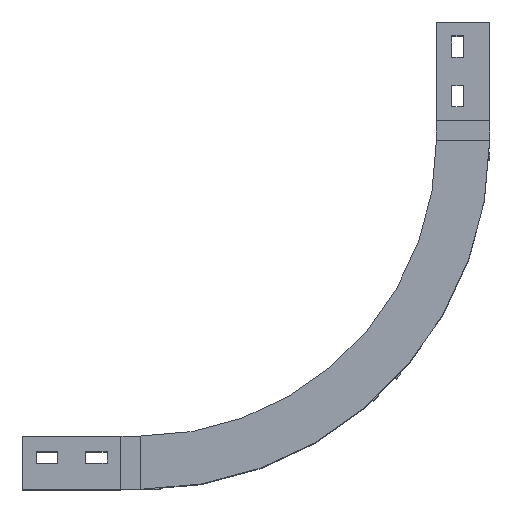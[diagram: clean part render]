
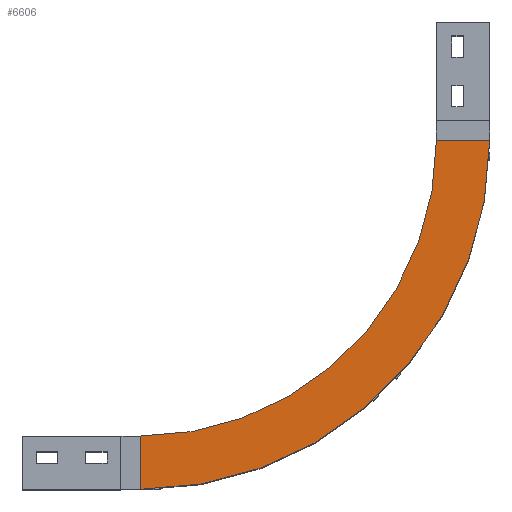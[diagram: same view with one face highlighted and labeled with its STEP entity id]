
A CAD part, top view. The second image highlights one B-rep face of the part: STEP entity #6606.
In plain terms, the highlighted planar face has unit normal (0, 0, 1).
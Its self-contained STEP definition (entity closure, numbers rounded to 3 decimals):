
#349=CIRCLE('',#6963,300.);
#350=CIRCLE('',#6964,354.);
#622=FACE_OUTER_BOUND('',#966,.T.);
#966=EDGE_LOOP('',(#4457,#4458,#4459,#4460));
#1433=LINE('',#9206,#2133);
#1437=LINE('',#9217,#2137);
#2133=VECTOR('',#7479,304.8);
#2137=VECTOR('',#7489,304.8);
#2833=VERTEX_POINT('',#9204);
#2834=VERTEX_POINT('',#9205);
#2837=VERTEX_POINT('',#9213);
#2838=VERTEX_POINT('',#9215);
#3481=EDGE_CURVE('',#2833,#2834,#1433,.T.);
#3485=EDGE_CURVE('',#2837,#2834,#349,.T.);
#3486=EDGE_CURVE('',#2833,#2838,#350,.T.);
#3487=EDGE_CURVE('',#2837,#2838,#1437,.T.);
#4457=ORIENTED_EDGE('',*,*,#3485,.T.);
#4458=ORIENTED_EDGE('',*,*,#3481,.F.);
#4459=ORIENTED_EDGE('',*,*,#3486,.T.);
#4460=ORIENTED_EDGE('',*,*,#3487,.F.);
#6398=PLANE('',#6962);
#6606=ADVANCED_FACE('',(#622),#6398,.T.);
#6962=AXIS2_PLACEMENT_3D('',#9212,#7483,#7484);
#6963=AXIS2_PLACEMENT_3D('',#9214,#7485,#7486);
#6964=AXIS2_PLACEMENT_3D('',#9216,#7487,#7488);
#7479=DIRECTION('',(0.,1.,0.));
#7483=DIRECTION('center_axis',(0.,0.,1.));
#7484=DIRECTION('ref_axis',(0.,-1.,0.));
#7485=DIRECTION('center_axis',(0.,0.,-1.));
#7486=DIRECTION('ref_axis',(0.,-1.,0.));
#7487=DIRECTION('center_axis',(0.,0.,1.));
#7488=DIRECTION('ref_axis',(0.,-1.,0.));
#7489=DIRECTION('',(1.,0.,0.));
#9204=CARTESIAN_POINT('',(-327.,-27.,205.5));
#9205=CARTESIAN_POINT('',(-327.,27.,205.5));
#9206=CARTESIAN_POINT('',(-327.,-27.,205.5));
#9212=CARTESIAN_POINT('Origin',(-327.,327.,205.5));
#9213=CARTESIAN_POINT('',(-27.,327.,205.5));
#9214=CARTESIAN_POINT('Origin',(-327.,327.,205.5));
#9215=CARTESIAN_POINT('',(27.,327.,205.5));
#9216=CARTESIAN_POINT('Origin',(-327.,327.,205.5));
#9217=CARTESIAN_POINT('',(-27.,327.,205.5));
